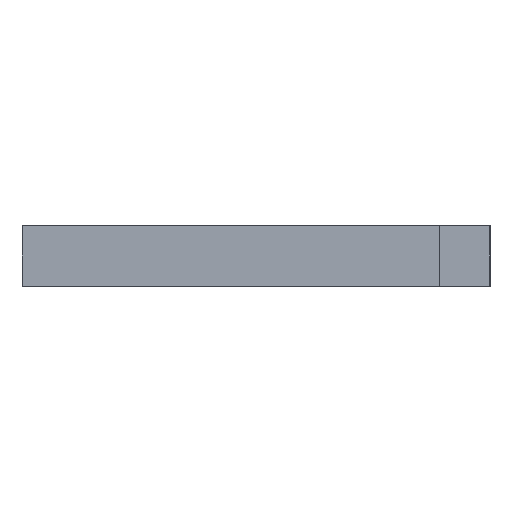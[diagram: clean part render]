
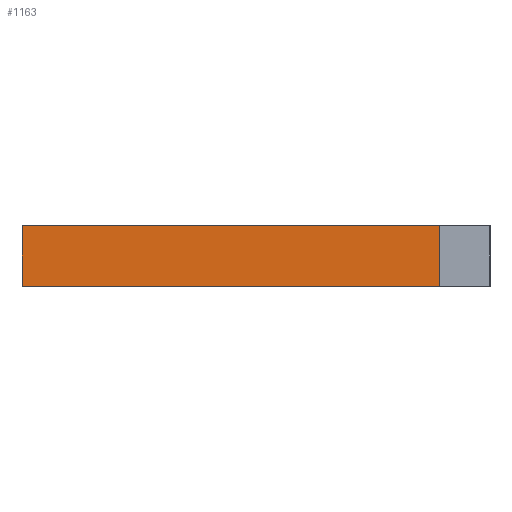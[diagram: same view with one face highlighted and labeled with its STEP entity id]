
A CAD part, left-side view. The second image highlights one B-rep face of the part: STEP entity #1163.
In plain terms, the highlighted planar face has unit normal (-1, 0, 0).
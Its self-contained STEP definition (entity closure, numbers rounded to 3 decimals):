
#75=PLANE('',#1293);
#131=FACE_OUTER_BOUND('',#211,.T.);
#211=EDGE_LOOP('',(#1028,#1029,#1030,#1031));
#327=LINE('',#1766,#428);
#384=LINE('',#1945,#485);
#385=LINE('',#1948,#486);
#386=LINE('',#1949,#487);
#428=VECTOR('',#1435,10.);
#485=VECTOR('',#1618,10.);
#486=VECTOR('',#1621,10.);
#487=VECTOR('',#1622,10.);
#535=VERTEX_POINT('',#1763);
#536=VERTEX_POINT('',#1765);
#595=VERTEX_POINT('',#1943);
#596=VERTEX_POINT('',#1947);
#663=EDGE_CURVE('',#535,#536,#327,.T.);
#753=EDGE_CURVE('',#595,#536,#384,.T.);
#754=EDGE_CURVE('',#596,#595,#385,.T.);
#755=EDGE_CURVE('',#596,#535,#386,.T.);
#1028=ORIENTED_EDGE('',*,*,#754,.T.);
#1029=ORIENTED_EDGE('',*,*,#753,.T.);
#1030=ORIENTED_EDGE('',*,*,#663,.F.);
#1031=ORIENTED_EDGE('',*,*,#755,.F.);
#1163=ADVANCED_FACE('',(#131),#75,.T.);
#1293=AXIS2_PLACEMENT_3D('',#1946,#1619,#1620);
#1435=DIRECTION('',(0.,-1.,0.));
#1618=DIRECTION('',(0.,0.,1.));
#1619=DIRECTION('center_axis',(-1.,0.,0.));
#1620=DIRECTION('ref_axis',(0.,-1.,0.));
#1621=DIRECTION('',(0.,-1.,0.));
#1622=DIRECTION('',(0.,0.,1.));
#1763=CARTESIAN_POINT('',(8.,46.5,6.));
#1765=CARTESIAN_POINT('',(8.,4.829,6.));
#1766=CARTESIAN_POINT('',(8.,46.5,6.));
#1943=CARTESIAN_POINT('',(8.,4.829,0.));
#1945=CARTESIAN_POINT('',(8.,4.829,0.));
#1946=CARTESIAN_POINT('Origin',(8.,46.5,0.));
#1947=CARTESIAN_POINT('',(8.,46.5,0.));
#1948=CARTESIAN_POINT('',(8.,46.5,0.));
#1949=CARTESIAN_POINT('',(8.,46.5,0.));
